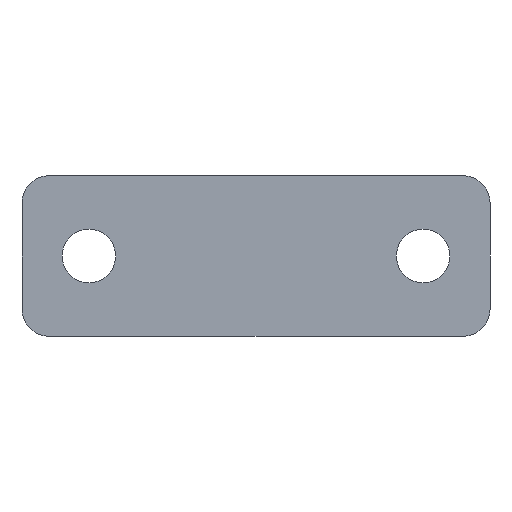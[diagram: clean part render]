
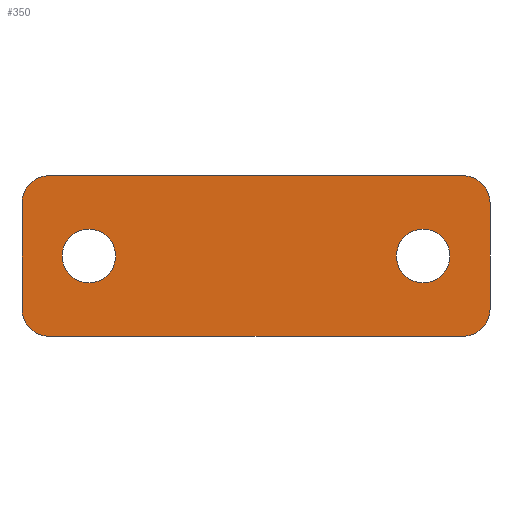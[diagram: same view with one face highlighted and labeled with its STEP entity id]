
A CAD part, front view. The second image highlights one B-rep face of the part: STEP entity #350.
In plain terms, the highlighted planar face has unit normal (0, -1, 0).
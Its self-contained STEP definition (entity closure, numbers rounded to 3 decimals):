
#20=FACE_BOUND('',#80,.T.);
#21=FACE_BOUND('',#81,.T.);
#32=PLANE('',#416);
#53=FACE_OUTER_BOUND('',#79,.T.);
#79=EDGE_LOOP('',(#310,#311,#312,#313,#314,#315,#316,#317));
#80=EDGE_LOOP('',(#318));
#81=EDGE_LOOP('',(#319));
#94=LINE('',#597,#118);
#98=LINE('',#606,#122);
#101=LINE('',#614,#125);
#104=LINE('',#622,#128);
#118=VECTOR('',#493,10.);
#122=VECTOR('',#503,10.);
#125=VECTOR('',#512,10.);
#128=VECTOR('',#521,10.);
#146=CIRCLE('',#401,2.);
#147=CIRCLE('',#403,2.);
#148=CIRCLE('',#406,2.);
#149=CIRCLE('',#409,2.);
#150=CIRCLE('',#412,2.);
#151=CIRCLE('',#415,2.);
#172=VERTEX_POINT('',#587);
#173=VERTEX_POINT('',#591);
#174=VERTEX_POINT('',#595);
#175=VERTEX_POINT('',#596);
#176=VERTEX_POINT('',#601);
#177=VERTEX_POINT('',#605);
#178=VERTEX_POINT('',#609);
#179=VERTEX_POINT('',#613);
#180=VERTEX_POINT('',#617);
#181=VERTEX_POINT('',#621);
#209=EDGE_CURVE('',#172,#172,#146,.T.);
#211=EDGE_CURVE('',#173,#173,#147,.T.);
#212=EDGE_CURVE('',#174,#175,#94,.T.);
#215=EDGE_CURVE('',#176,#174,#148,.T.);
#217=EDGE_CURVE('',#177,#176,#98,.T.);
#219=EDGE_CURVE('',#178,#177,#149,.T.);
#221=EDGE_CURVE('',#179,#178,#101,.T.);
#223=EDGE_CURVE('',#180,#179,#150,.T.);
#225=EDGE_CURVE('',#181,#180,#104,.T.);
#227=EDGE_CURVE('',#175,#181,#151,.T.);
#310=ORIENTED_EDGE('',*,*,#227,.F.);
#311=ORIENTED_EDGE('',*,*,#212,.F.);
#312=ORIENTED_EDGE('',*,*,#215,.F.);
#313=ORIENTED_EDGE('',*,*,#217,.F.);
#314=ORIENTED_EDGE('',*,*,#219,.F.);
#315=ORIENTED_EDGE('',*,*,#221,.F.);
#316=ORIENTED_EDGE('',*,*,#223,.F.);
#317=ORIENTED_EDGE('',*,*,#225,.F.);
#318=ORIENTED_EDGE('',*,*,#209,.T.);
#319=ORIENTED_EDGE('',*,*,#211,.T.);
#350=ADVANCED_FACE('',(#53,#20,#21),#32,.F.);
#401=AXIS2_PLACEMENT_3D('',#589,#484,#485);
#403=AXIS2_PLACEMENT_3D('',#593,#489,#490);
#406=AXIS2_PLACEMENT_3D('',#602,#498,#499);
#409=AXIS2_PLACEMENT_3D('',#610,#507,#508);
#412=AXIS2_PLACEMENT_3D('',#618,#516,#517);
#415=AXIS2_PLACEMENT_3D('',#625,#525,#526);
#416=AXIS2_PLACEMENT_3D('',#626,#527,#528);
#484=DIRECTION('center_axis',(0.,1.,0.));
#485=DIRECTION('ref_axis',(1.,0.,0.));
#489=DIRECTION('center_axis',(0.,1.,0.));
#490=DIRECTION('ref_axis',(1.,0.,0.));
#493=DIRECTION('',(1.,0.,0.));
#498=DIRECTION('center_axis',(0.,1.,0.));
#499=DIRECTION('ref_axis',(-1.,0.,0.));
#503=DIRECTION('',(0.,0.,1.));
#507=DIRECTION('center_axis',(0.,1.,0.));
#508=DIRECTION('ref_axis',(0.,0.,-1.));
#512=DIRECTION('',(-1.,0.,0.));
#516=DIRECTION('center_axis',(0.,1.,0.));
#517=DIRECTION('ref_axis',(1.,0.,0.));
#521=DIRECTION('',(0.,0.,-1.));
#525=DIRECTION('center_axis',(0.,1.,0.));
#526=DIRECTION('ref_axis',(0.,0.,1.));
#527=DIRECTION('center_axis',(0.,1.,0.));
#528=DIRECTION('ref_axis',(0.,0.,1.));
#587=CARTESIAN_POINT('',(14.459,0.,4.7));
#589=CARTESIAN_POINT('Origin',(16.459,0.,4.7));
#591=CARTESIAN_POINT('',(-10.541,0.,4.7));
#593=CARTESIAN_POINT('Origin',(-8.541,0.,4.7));
#595=CARTESIAN_POINT('',(-11.541,0.,10.7));
#596=CARTESIAN_POINT('',(19.459,0.,10.7));
#597=CARTESIAN_POINT('',(-11.541,0.,10.7));
#601=CARTESIAN_POINT('',(-13.541,0.,8.7));
#602=CARTESIAN_POINT('Origin',(-11.541,0.,8.7));
#605=CARTESIAN_POINT('',(-13.541,0.,0.7));
#606=CARTESIAN_POINT('',(-13.541,0.,0.7));
#609=CARTESIAN_POINT('',(-11.541,0.,-1.3));
#610=CARTESIAN_POINT('Origin',(-11.541,0.,0.7));
#613=CARTESIAN_POINT('',(19.459,0.,-1.3));
#614=CARTESIAN_POINT('',(19.459,0.,-1.3));
#617=CARTESIAN_POINT('',(21.459,0.,0.7));
#618=CARTESIAN_POINT('Origin',(19.459,0.,0.7));
#621=CARTESIAN_POINT('',(21.459,0.,8.7));
#622=CARTESIAN_POINT('',(21.459,0.,8.7));
#625=CARTESIAN_POINT('Origin',(19.459,0.,8.7));
#626=CARTESIAN_POINT('Origin',(3.959,0.,4.7));
